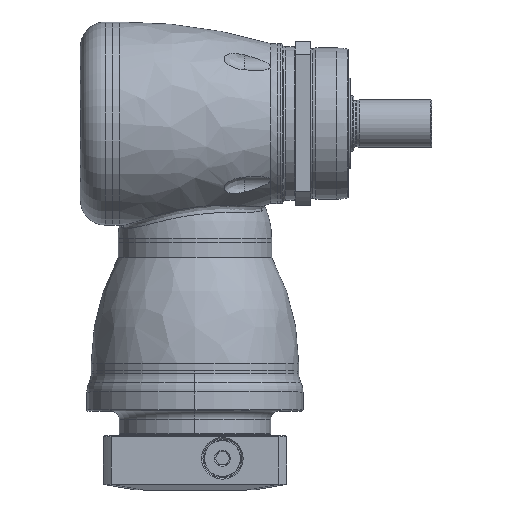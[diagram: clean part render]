
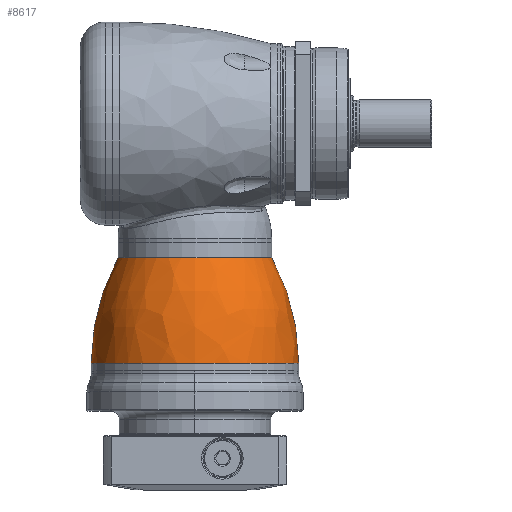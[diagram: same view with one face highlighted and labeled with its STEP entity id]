
A CAD part, top view. The second image highlights one B-rep face of the part: STEP entity #8617.
In plain terms, the highlighted free-form (B-spline) face has degree [3, 3] with [7, 4] control points.
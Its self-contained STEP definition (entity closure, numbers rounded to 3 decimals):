
#8446=CARTESIAN_POINT('',(-3.5,0.,0.));
#8447=DIRECTION('',(1.,0.,0.));
#8448=DIRECTION('',(0.,1.,0.));
#8449=AXIS2_PLACEMENT_3D('',#8446,#8447,#8448);
#8456=CARTESIAN_POINT('',(-52.388,0.,0.));
#8457=DIRECTION('',(-1.,0.,0.));
#8458=DIRECTION('',(0.,-1.,0.));
#8459=AXIS2_PLACEMENT_3D('',#8456,#8457,#8458);
#8461=CARTESIAN_POINT('',(-3.5,-54.29,0.));
#8462=DIRECTION('',(0.,0.,-1.));
#8463=DIRECTION('',(-0.478,0.878,0.));
#8464=AXIS2_PLACEMENT_3D('',#8461,#8462,#8463);
#8466=CARTESIAN_POINT('',(-3.5,54.29,0.));
#8467=DIRECTION('',(0.,0.,1.));
#8468=DIRECTION('',(-0.478,-0.878,0.));
#8469=AXIS2_PLACEMENT_3D('',#8466,#8467,#8468);
#8536=CARTESIAN_POINT('',(-3.5,48.,0.));
#8537=CARTESIAN_POINT('',(-3.5,-48.,0.));
#8538=VERTEX_POINT('',#8536);
#8539=VERTEX_POINT('',#8537);
#8544=CARTESIAN_POINT('',(-52.388,35.561,0.));
#8545=CARTESIAN_POINT('',(-52.388,-35.561,0.));
#8546=VERTEX_POINT('',#8544);
#8547=VERTEX_POINT('',#8545);
#8579=CARTESIAN_POINT('',(-2.481,-47.9,
-3.014));
#8580=CARTESIAN_POINT('',(-20.351,-48.078,
-3.025));
#8581=CARTESIAN_POINT('',(-37.67,-43.68,
-2.748));
#8582=CARTESIAN_POINT('',(-53.281,-35.,
-2.202));
#8583=CARTESIAN_POINT('',(-2.481,-49.755,
26.464));
#8584=CARTESIAN_POINT('',(-20.351,-49.939,
26.562));
#8585=CARTESIAN_POINT('',(-37.67,-45.371,
24.132));
#8586=CARTESIAN_POINT('',(-53.281,-36.355,
19.337));
#8587=CARTESIAN_POINT('',(-2.481,-29.536,
47.995));
#8588=CARTESIAN_POINT('',(-20.351,-29.646,
48.173));
#8589=CARTESIAN_POINT('',(-37.67,-26.934,
43.766));
#8590=CARTESIAN_POINT('',(-53.281,-21.581,
35.069));
#8591=CARTESIAN_POINT('',(-2.481,0.,
47.995));
#8592=CARTESIAN_POINT('',(-20.351,0.,
48.173));
#8593=CARTESIAN_POINT('',(-37.67,0.,
43.766));
#8594=CARTESIAN_POINT('',(-53.281,0.,
35.069));
#8595=CARTESIAN_POINT('',(-2.481,29.536,47.995));
#8596=CARTESIAN_POINT('',(-20.351,29.646,48.173));
#8597=CARTESIAN_POINT('',(-37.67,26.934,43.766));
#8598=CARTESIAN_POINT('',(-53.281,21.581,35.069));
#8599=CARTESIAN_POINT('',(-2.481,49.755,26.464));
#8600=CARTESIAN_POINT('',(-20.351,49.939,26.562));
#8601=CARTESIAN_POINT('',(-37.67,45.371,24.132));
#8602=CARTESIAN_POINT('',(-53.281,36.355,19.337));
#8603=CARTESIAN_POINT('',(-2.481,47.9,
-3.014));
#8604=CARTESIAN_POINT('',(-20.351,48.078,
-3.025));
#8605=CARTESIAN_POINT('',(-37.67,43.68,
-2.748));
#8606=CARTESIAN_POINT('',(-53.281,35.,
-2.202));
#8607=(BOUNDED_SURFACE()B_SPLINE_SURFACE(3,3,((#8579,#8580,#8581,#8582),(#8583,
#8584,#8585,#8586),(#8587,#8588,#8589,#8590),(#8591,#8592,#8593,#8594),(#8595,
#8596,#8597,#8598),(#8599,#8600,#8601,#8602),(#8603,#8604,#8605,#8606)),
.UNSPECIFIED.,.F.,.F.,.F.)B_SPLINE_SURFACE_WITH_KNOTS((4,3,4),(4,4),(0.,1.,
2.),(0.,1.),.UNSPECIFIED.)GEOMETRIC_REPRESENTATION_ITEM()RATIONAL_B_SPLINE_SURFACE(((1.207,1.181,1.181,1.207),(
0.953,0.932,0.932,0.953),(
0.953,0.932,0.932,0.953),(
1.207,1.181,1.181,1.207),(
0.953,0.932,0.932,0.953),(
0.953,0.932,0.932,0.953),(
1.207,1.181,1.181,1.207)))REPRESENTATION_ITEM('')SURFACE());
#8609=ORIENTED_EDGE('',*,*,#8608,.T.);
#8611=ORIENTED_EDGE('',*,*,#8610,.T.);
#8612=ORIENTED_EDGE('',*,*,#8569,.T.);
#8614=ORIENTED_EDGE('',*,*,#8613,.F.);
#8615=EDGE_LOOP('',(#8609,#8611,#8612,#8614));
#8616=FACE_OUTER_BOUND('',#8615,.F.);
#8617=ADVANCED_FACE('',(#8616),#8607,.T.);
#8450=CIRCLE('',#8449,48.);
#8460=CIRCLE('',#8459,35.561);
#8465=CIRCLE('',#8464,102.29);
#8470=CIRCLE('',#8469,102.29);
#8569=EDGE_CURVE('',#8538,#8539,#8450,.T.);
#8608=EDGE_CURVE('',#8547,#8546,#8460,.T.);
#8610=EDGE_CURVE('',#8546,#8538,#8465,.T.);
#8613=EDGE_CURVE('',#8547,#8539,#8470,.T.);
